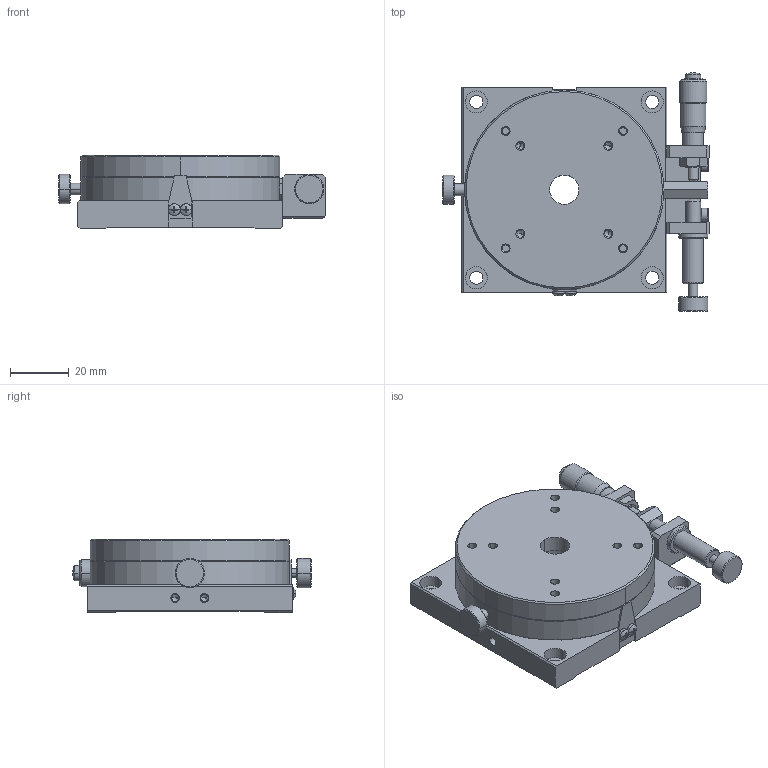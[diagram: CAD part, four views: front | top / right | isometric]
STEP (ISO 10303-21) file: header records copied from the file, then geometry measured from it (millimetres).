
FILE_DESCRIPTION (( 'STEP AP214' ), '1' );
FILE_NAME ('RM07A-C1.STEP', '2007-08-01T03:54:16', ( ' ' ), ( ' ' ), 'SwSTEP 2.0', 'SolidWorks 2006052', '' );
FILE_SCHEMA (( 'AUTOMOTIVE_DESIGN' ));
Length unit declared in the file: millimetre
Products named in the file (8): 003460-1010(3D); 000211-1130(3D)-4; 003420-1030(3D); MICROMETERHEAD(MHT4-6.5)spindle-4; CRBH258AUUT1; 003460-1020(3D); 000211-1080(3D)-4; RM07A-C1
Assembly tree (7 placements, depth 2):
  RM07A-C1
    000211-1080(3D)-4
    003460-1020(3D)
    MICROMETERHEAD(MHT4-6.5)spindle-4
    003420-1030(3D)
    CRBH258AUUT1
    003460-1010(3D)
    000211-1130(3D)-4
Bounding box: 91 x 81.49 x 25 mm (x, y, z)
Volume: 98440.3 mm3; surface area: 47914.8 mm2
Topology: 7 solids, 32 shells, 921 faces, 2026 edges, 1174 vertices
Faces by surface type: plane 345, cylinder 317, cone 193, torus 52, sphere 14
Entity records: 25243 total; most frequent: DIRECTION 4731, CARTESIAN_POINT 4409, ORIENTED_EDGE 3924, EDGE_CURVE 1962, AXIS2_PLACEMENT_3D 1878, VERTEX_POINT 1174, EDGE_LOOP 1062, VECTOR 975
